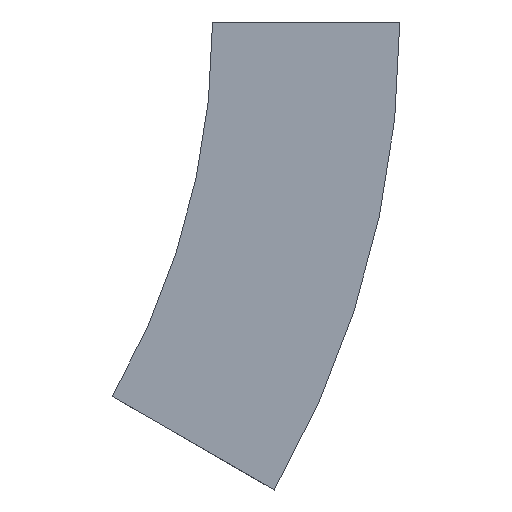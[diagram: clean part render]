
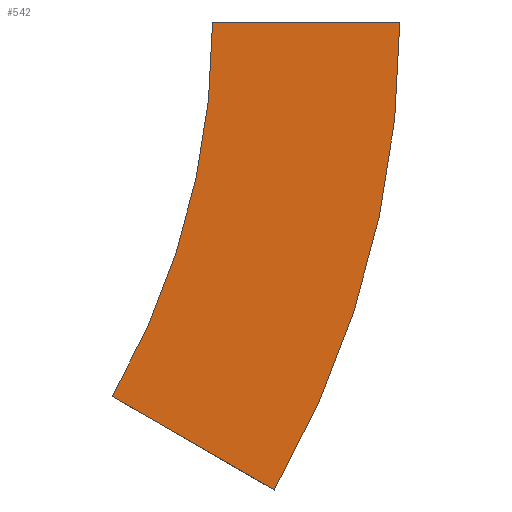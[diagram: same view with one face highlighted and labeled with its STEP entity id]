
A CAD part, left-side view. The second image highlights one B-rep face of the part: STEP entity #542.
In plain terms, the highlighted planar face has unit normal (-1, 0, 0) as drawn and (1, 0, 0) by its records, which use the part's own axes.
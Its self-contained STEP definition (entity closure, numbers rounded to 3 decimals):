
#9 = VECTOR ( 'NONE', #465, 1000. ) ;
#23 = AXIS2_PLACEMENT_3D ( 'NONE', #161, #293, #327 ) ;
#28 = VERTEX_POINT ( 'NONE', #358 ) ;
#37 = EDGE_LOOP ( 'NONE', ( #555, #260, #100, #475 ) ) ;
#40 = CARTESIAN_POINT ( 'NONE',  ( 0., 300., 0. ) ) ;
#44 = DIRECTION ( 'NONE',  ( 0., 0., 1. ) ) ;
#51 = AXIS2_PLACEMENT_3D ( 'NONE', #40, #216, #380 ) ;
#52 = CARTESIAN_POINT ( 'NONE',  ( 0., -24.76, -187.5 ) ) ;
#58 = VECTOR ( 'NONE', #267, 1000. ) ;
#85 = FACE_OUTER_BOUND ( 'NONE', #37, .T. ) ;
#94 = AXIS2_PLACEMENT_3D ( 'NONE', #433, #119, #44 ) ;
#100 = ORIENTED_EDGE ( 'NONE', *, *, #418, .T. ) ;
#119 = DIRECTION ( 'NONE',  ( -1., 0., 0. ) ) ;
#138 = LINE ( 'NONE', #52, #58 ) ;
#152 = CIRCLE ( 'NONE', #23, 375. ) ;
#159 = VERTEX_POINT ( 'NONE', #398 ) ;
#161 = CARTESIAN_POINT ( 'NONE',  ( 0., 300., 0. ) ) ;
#163 = EDGE_CURVE ( 'NONE', #159, #28, #138, .T. ) ;
#201 = CARTESIAN_POINT ( 'NONE',  ( 0., -75., 0. ) ) ;
#216 = DIRECTION ( 'NONE',  ( 1., 0., 0. ) ) ;
#219 = PLANE ( 'NONE',  #94 ) ;
#260 = ORIENTED_EDGE ( 'NONE', *, *, #385, .F. ) ;
#267 = DIRECTION ( 'NONE',  ( 0., 0.866, 0.5 ) ) ;
#293 = DIRECTION ( 'NONE',  ( 1., 0., 0. ) ) ;
#301 = CARTESIAN_POINT ( 'NONE',  ( 0., 0., 0. ) ) ;
#302 = CIRCLE ( 'NONE', #51, 300. ) ;
#327 = DIRECTION ( 'NONE',  ( 0., -1., 0. ) ) ;
#337 = LINE ( 'NONE', #201, #9 ) ;
#340 = CARTESIAN_POINT ( 'NONE',  ( 0., -75., 0. ) ) ;
#358 = CARTESIAN_POINT ( 'NONE',  ( 0., 40.192, -150. ) ) ;
#380 = DIRECTION ( 'NONE',  ( 0., -1., 0. ) ) ;
#385 = EDGE_CURVE ( 'NONE', #518, #557, #337, .T. ) ;
#398 = CARTESIAN_POINT ( 'NONE',  ( 0., -24.76, -187.5 ) ) ;
#418 = EDGE_CURVE ( 'NONE', #518, #159, #152, .T. ) ;
#433 = CARTESIAN_POINT ( 'NONE',  ( 0., -75., 0. ) ) ;
#463 = EDGE_CURVE ( 'NONE', #557, #28, #302, .T. ) ;
#465 = DIRECTION ( 'NONE',  ( 0., 1., 0. ) ) ;
#475 = ORIENTED_EDGE ( 'NONE', *, *, #163, .T. ) ;
#518 = VERTEX_POINT ( 'NONE', #340 ) ;
#542 = ADVANCED_FACE ( 'NONE', ( #85 ), #219, .F. ) ;
#555 = ORIENTED_EDGE ( 'NONE', *, *, #463, .F. ) ;
#557 = VERTEX_POINT ( 'NONE', #301 ) ;
